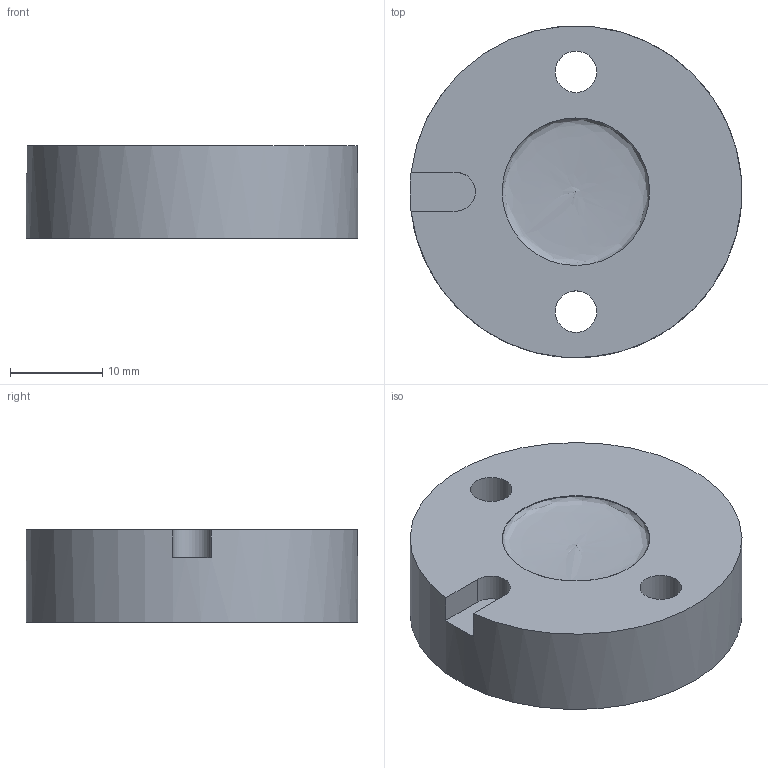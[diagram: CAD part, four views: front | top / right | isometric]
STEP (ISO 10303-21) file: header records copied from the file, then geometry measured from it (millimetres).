
FILE_DESCRIPTION((''),'2;1');
FILE_NAME('K:\Daten\Bauteil2.stp','2009-06-29T09:20:08',('kamp'),(''),'Autodesk Inventor 2008','Autodesk Inventor 2008','');
FILE_SCHEMA(('AUTOMOTIVE_DESIGN { 1 0 10303 214 1 1 1 1 }'));
Length unit declared in the file: millimetre
Products named in the file (1): Bauteil2
Bounding box: 35.99 x 35.96 x 10.01 mm (x, y, z)
Volume: 9283.7 mm3; surface area: 3556.4 mm2
Topology: 1 solids, 1 shells, 682 faces, 1848 edges, 1233 vertices
Faces by surface type: plane 368, bspline 297, cylinder 17
Full cylindrical faces by diameter (mm): 0.923 x1, 1.024 x1, 16 x1, 36 x1
Entity records: 23534 total; most frequent: CARTESIAN_POINT 7651, ORIENTED_EDGE 3662, DIRECTION 2072, EDGE_CURVE 1831, VERTEX_POINT 1227, VECTOR 1208, LINE 1208, EDGE_LOOP 762
